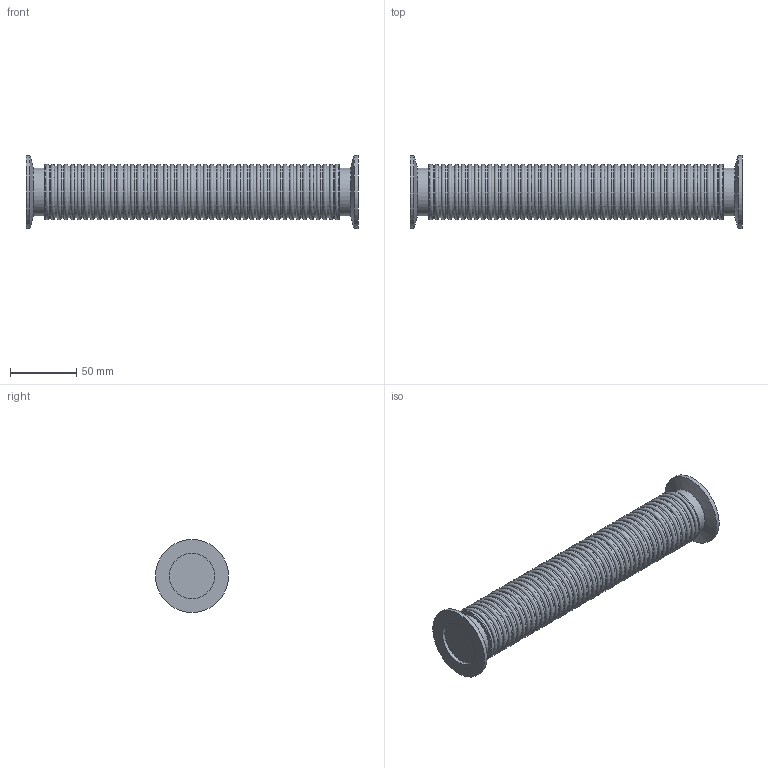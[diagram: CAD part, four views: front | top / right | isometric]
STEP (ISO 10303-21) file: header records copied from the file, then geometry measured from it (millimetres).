
FILE_DESCRIPTION( ( 'Unknown' ), '1' );
FILE_NAME( 'X:/Daten ( aktueller Bestand )/Projekte und Zeichnungen/Solid Edge/6 Verbindungsbauteile/Edelstahlschlauch/1905.stp', 'Unknown', ( 'Unknown' ), ( 'Unknown' ), 'XStep 1.0', 'Unknown', ' ' );
FILE_SCHEMA( ( 'automotive_design' ) );
Length unit declared in the file: millimetre
Products named in the file (1): 1
Bounding box: 250 x 55 x 55 mm (x, y, z)
Volume: 317963.8 mm3; surface area: 49203.6 mm2
Topology: 1 solids, 1 shells, 105 faces, 203 edges, 104 vertices
Faces by surface type: cylinder 52, torus 45, plane 6, cone 2
Full cylindrical faces by diameter (mm): 34.2 x2, 36 x2, 38.8 x44, 41.036 x2, 55 x2
Entity records: 2950 total; most frequent: DIRECTION 420, CARTESIAN_POINT 314, AXIS2_PLACEMENT_3D 210, EDGE_LOOP 208, ORIENTED_EDGE 208, FACE_OUTER_BOUND 202, STYLED_ITEM 105, PRESENTATION_STYLE_ASSIGNMENT 105
